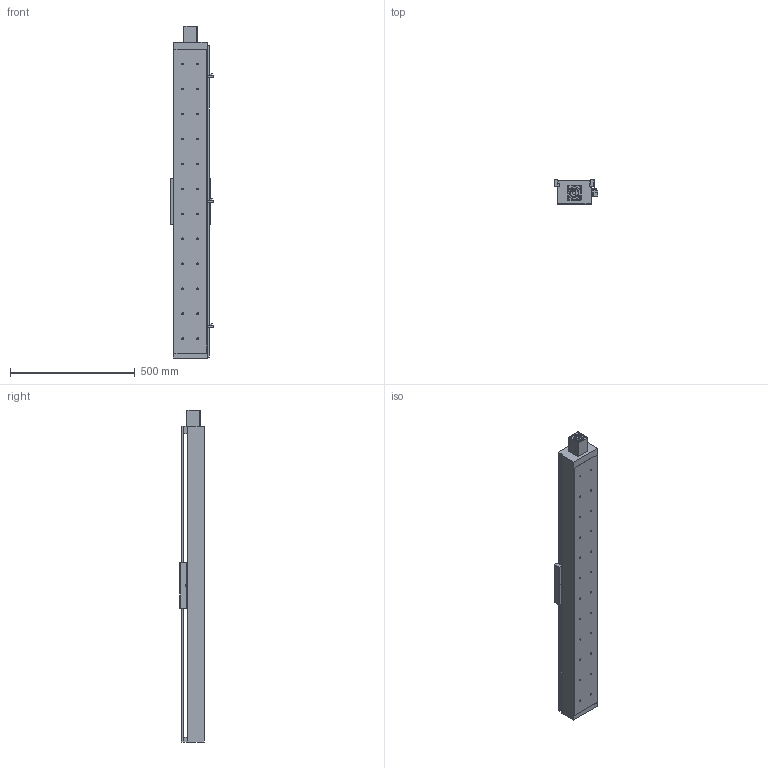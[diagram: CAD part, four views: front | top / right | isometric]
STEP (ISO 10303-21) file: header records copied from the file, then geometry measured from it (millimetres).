
FILE_DESCRIPTION((''),'2;1');
FILE_NAME('E:\libraries\UIA actuator library 2009\standard actuator\UIA136 ball screw 25\UIA136R15NDC-_ _ _-R25_ _, stp file 27Apr16\UIA136R15NDC-1000-R25_ _-M60-P13-C10-S.stp','2016-04-28T17:06:30',('h029'),(''),'Autodesk Inventor 11','Autodesk Inventor 11','');
FILE_SCHEMA(('AUTOMOTIVE_DESIGN { 1 0 10303 214 1 1 1 1 }'));
Length unit declared in the file: millimetre
Products named in the file (10): UIA136R15NDC-1000; UIA136R15NDC-body; motor mount F60; SOH-32C; SOH-32C-3; SOH-32C-1; SOH-32C-2; Carriage; Sensor Switch; sensor rail
Assembly tree (9 placements, depth 3):
  UIA136R15NDC-1000
    UIA136R15NDC-body
    motor mount F60
    SOH-32C
      SOH-32C-3
      SOH-32C-1
      SOH-32C-2
    Carriage
    Sensor Switch
    sensor rail
Bounding box: 174.5 x 98 x 1330 mm (x, y, z)
Volume: 4916807.4 mm3; surface area: 1375129.7 mm2
Topology: 8 solids, 8 shells, 532 faces, 1391 edges, 910 vertices
Faces by surface type: plane 324, bspline 158, cylinder 46, cone 4
Full cylindrical faces by diameter (mm): 2.459 x2, 3.242 x2, 4.5 x2, 7 x4, 7.5 x2, 14 x3, 17 x1, 32 x3, 37 x1, 50.3 x1, 50.5 x1
Entity records: 17380 total; most frequent: CARTESIAN_POINT 5108, ORIENTED_EDGE 2360, DIRECTION 2314, EDGE_CURVE 1180, VERTEX_POINT 846, VECTOR 816, LINE 816, EDGE_LOOP 816
